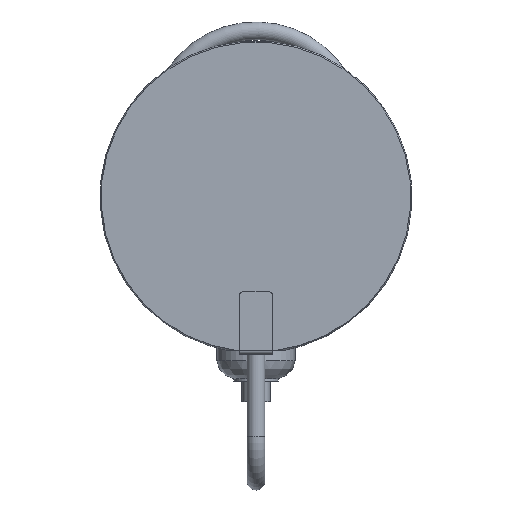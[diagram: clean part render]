
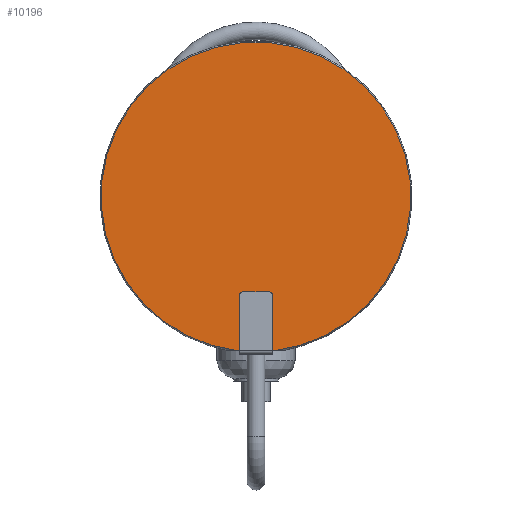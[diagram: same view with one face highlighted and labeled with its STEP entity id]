
A CAD part, front view. The second image highlights one B-rep face of the part: STEP entity #10196.
In plain terms, the highlighted planar face has unit normal (0, -1, 0).
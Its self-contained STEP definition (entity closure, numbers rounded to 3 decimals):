
#384=PLANE('',#10813);
#647=LINE('',#14261,#1189);
#1189=VECTOR('',#11923,1000.);
#1951=ORIENTED_EDGE('',*,*,#3933,.F.);
#1952=ORIENTED_EDGE('',*,*,#3934,.T.);
#1953=ORIENTED_EDGE('',*,*,#3935,.T.);
#3933=EDGE_CURVE('',#4957,#4957,#5624,.T.);
#3934=EDGE_CURVE('',#4958,#4959,#5625,.T.);
#3935=EDGE_CURVE('',#4959,#4958,#647,.T.);
#4957=VERTEX_POINT('',#14257);
#4958=VERTEX_POINT('',#14259);
#4959=VERTEX_POINT('',#14260);
#5624=CIRCLE('',#10814,5.5);
#5625=CIRCLE('',#10815,69.5);
#6080=EDGE_LOOP('',(#1951));
#6081=EDGE_LOOP('',(#1952,#1953));
#6687=FACE_BOUND('',#6080,.T.);
#6688=FACE_BOUND('',#6081,.T.);
#10196=ADVANCED_FACE('',(#6687,#6688),#384,.F.);
#10813=AXIS2_PLACEMENT_3D('',#14255,#11917,#11918);
#10814=AXIS2_PLACEMENT_3D('',#14256,#11919,#11920);
#10815=AXIS2_PLACEMENT_3D('',#14258,#11921,#11922);
#11917=DIRECTION('',(0.,1.,0.));
#11918=DIRECTION('',(0.,0.,1.));
#11919=DIRECTION('',(0.,-1.,0.));
#11920=DIRECTION('',(1.,0.,0.));
#11921=DIRECTION('',(0.,-1.,0.));
#11922=DIRECTION('',(1.,0.,0.));
#11923=DIRECTION('',(1.,0.,0.));
#14255=CARTESIAN_POINT('',(0.,-3.,0.));
#14256=CARTESIAN_POINT('',(0.,-3.,-55.));
#14257=CARTESIAN_POINT('',(5.5,-3.,-55.));
#14258=CARTESIAN_POINT('',(0.,-3.,0.));
#14259=CARTESIAN_POINT('',(8.322,-3.,-69.));
#14260=CARTESIAN_POINT('',(-8.322,-3.,-69.));
#14261=CARTESIAN_POINT('',(-20.,-3.,-69.));
